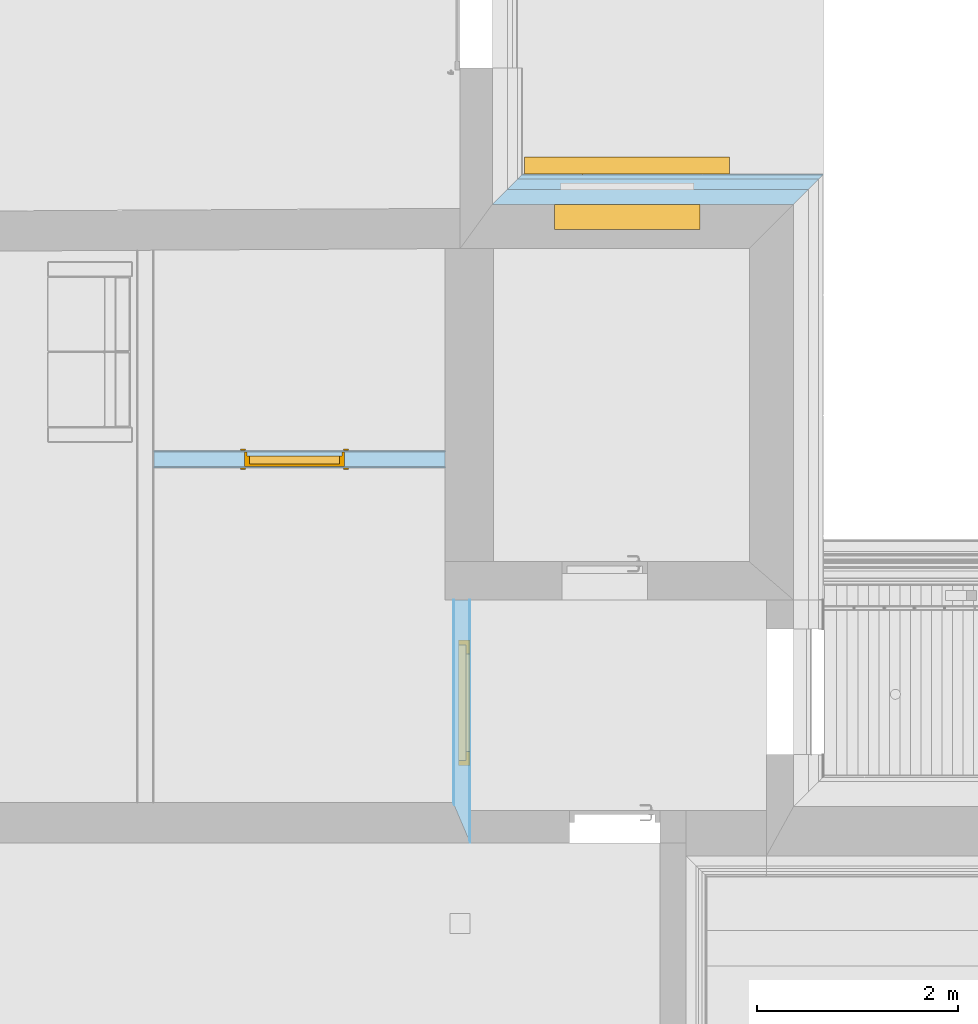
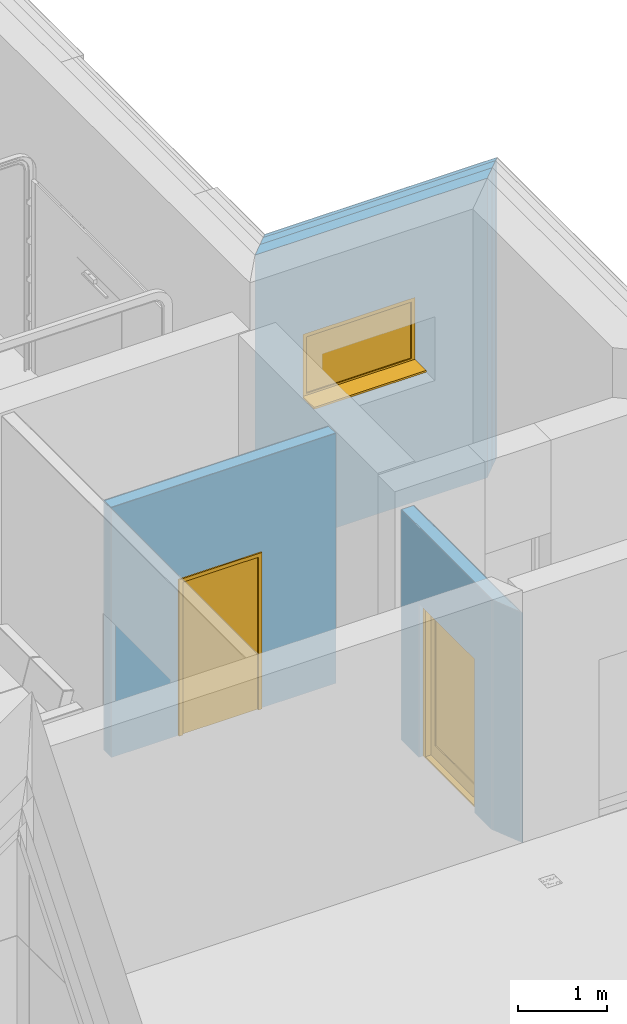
# One storey, part 119 of 418: 2 doors, 1 window, 7 openings, 3 elements without a shape of their own, plus 10 elements that do not belong to this part.
"""IFC2X3 building model written with IfcOpenShell, lengths in millimetres."""

from ifc_helpers import new_model, entity, si_unit, converted_unit, derived_unit, money_unit, direction, frame, origin_with_axes, origin_2d_with_axis, place, context, subcontext, project, spatial, polyline, rectangle, outline, extrude, open_shell, faceted_brep, surface_model, material, type_object, element, fill, aggregate, save


model = new_model("IFC2X3")

# Units and contexts
model_context = context("Model", 3, precision=0.01, world=origin_with_axes(), true_north=direction((0.0, 1.0)))
body_context = subcontext(model_context, "Body", "Model", "MODEL_VIEW")
ifc_project = project(units=[si_unit("LENGTHUNIT", "METRE", prefix="MILLI"), si_unit("AREAUNIT", "SQUARE_METRE"), si_unit("VOLUMEUNIT", "CUBIC_METRE"), converted_unit("PLANEANGLEUNIT", "DEGREE", entity("IfcPlaneAngleMeasure", 0.0174532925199), si_unit("PLANEANGLEUNIT", "RADIAN"), dimensions=[0, 0, 0, 0, 0, 0, 0]), si_unit("SOLIDANGLEUNIT", "STERADIAN"), money_unit("EUR"), converted_unit("TIMEUNIT", "Year", entity("IfcTimeMeasure", 31556926.0), si_unit("TIMEUNIT", "SECOND"), dimensions=[0, 0, 1, 0, 0, 0, 0]), si_unit("MASSUNIT", "GRAM", prefix="KILO"), si_unit("THERMODYNAMICTEMPERATUREUNIT", "DEGREE_CELSIUS"), si_unit("LUMINOUSINTENSITYUNIT", "LUMEN"), si_unit("ENERGYUNIT", "JOULE", prefix="MEGA"), derived_unit("THERMALCONDUCTANCEUNIT", [(si_unit("POWERUNIT", "WATT"), 1), (si_unit("LENGTHUNIT", "METRE"), -1), (si_unit("THERMODYNAMICTEMPERATUREUNIT", "KELVIN"), -1)]), derived_unit("SPECIFICHEATCAPACITYUNIT", [(si_unit("ENERGYUNIT", "JOULE"), 1), (si_unit("MASSUNIT", "GRAM", prefix="KILO"), -1), (si_unit("THERMODYNAMICTEMPERATUREUNIT", "KELVIN"), -1)]), derived_unit("MASSDENSITYUNIT", [(si_unit("MASSUNIT", "GRAM", prefix="KILO"), 1), (si_unit("VOLUMEUNIT", "CUBIC_METRE"), -1)])], contexts=[model_context])

# Site, building, storey
site_placement = place(None, origin_with_axes())
site = spatial("IfcSite", under=ifc_project, at=site_placement, Name="Paldiski mnt 245/1, Tallinn, Harjumaa", CompositionType="COMPLEX")
building_placement = place(site_placement, origin_with_axes())
building = spatial("IfcBuilding", under=site, at=building_placement, Name="RKAS Hoone üldnimetus (kasutust iseloomustav) -> IFC Project Manager -> SOLIBRI", CompositionType="ELEMENT")
storey_placement = place(building_placement, origin_with_axes())
storey = spatial("IfcBuildingStorey", under=building, at=storey_placement, Name="Esimene korrus", CompositionType="ELEMENT", Elevation=0.0)

# Door
door_style_1 = type_object("IfcDoorStyle", Name="Door 23", ConstructionType="NOTDEFINED", OperationType="SINGLE_SWING_LEFT", ParameterTakesPrecedence=False, Sizeable=False)
wall_1_placement = place(storey_placement, frame((-53609.9975509, 9565.96823134, 0.0), z_axis=(0.0, 0.0, 1.0), x_axis=(1.0, 0.0, 0.0)))
opening_1_placement = place(wall_1_placement, frame((1569.99998215, 0.0, 0.0), z_axis=(0.0, 0.0, 1.0), x_axis=(1.0, 0.0, 0.0)))
door_1_placement = place(opening_1_placement, frame((500.0, 0.0, 0.0), z_axis=(0.0, 0.0, 1.0), x_axis=(-1.0, 0.0, 0.0)))
door_1 = element("IfcDoor", 1, at=door_1_placement, inside=storey, type_object=door_style_1, Name="SU-11p", ObjectType="DOOR", OverallHeight=2100.0, OverallWidth=1000.0, context=body_context, shape_type="Brep", body=[
    faceted_brep([(38.0, -40.0, 0.0), (50.0, -40.0, 0.0), (50.0, -40.0, 20.0), (38.0, -40.0, 20.0), (962.0, -40.0, 0.0), (950.0, -40.0, 0.0), (950.0, -115.0, 0.0), (50.0, -115.0, 0.0), (50.0, -115.0, 20.0), (950.0, -115.0, 20.0), (950.0, -40.0, 20.0), (962.0, -40.0, 20.0)], [[[0, 1, 2, 3]], [[0, 4, 5, 6, 7, 1]], [[1, 7, 8, 2]], [[3, 2, 8, 9, 10, 11]], [[4, 0, 3, 11]], [[5, 4, 11, 10]], [[6, 5, 10, 9]], [[7, 6, 9, 8]]]),
    faceted_brep([(1000.0, -115.0, 0.0), (1000.0, -170.0, 0.0), (975.0, -170.0, 0.0), (975.0, -115.0, 0.0), (1000.0, -115.0, 2100.0), (1000.0, -170.0, 2100.0), (975.0, -170.0, 2075.0), (975.0, -115.0, 2075.0)], [[[0, 1, 2, 3]], [[4, 5, 1, 0]], [[1, 5, 6, 2]], [[3, 2, 6, 7]], [[0, 3, 7, 4]], [[7, 6, 5, 4]]]),
    faceted_brep([(0.0, -115.0, 2100.0), (0.0, -170.0, 2100.0), (25.0, -170.0, 2075.0), (25.0, -115.0, 2075.0), (0.0, -115.0, 0.0), (0.0, -170.0, 0.0), (25.0, -170.0, 0.0), (25.0, -115.0, 0.0)], [[[0, 1, 2, 3]], [[4, 5, 1, 0]], [[1, 5, 6, 2]], [[3, 2, 6, 7]], [[0, 3, 7, 4]], [[7, 6, 5, 4]]]),
    faceted_brep([(975.0, -115.0, 2075.0), (975.0, -170.0, 2075.0), (25.0, -170.0, 2075.0), (25.0, -115.0, 2075.0), (1000.0, -115.0, 2100.0), (1000.0, -170.0, 2100.0), (0.0, -170.0, 2100.0), (0.0, -115.0, 2100.0)], [[[0, 1, 2, 3]], [[4, 5, 1, 0]], [[1, 5, 6, 2]], [[3, 2, 6, 7]], [[0, 3, 7, 4]], [[7, 6, 5, 4]]]),
    faceted_brep([(1037.0, -189.0, 0.0), (987.0, -189.0, 0.0), (987.0, -170.0, 0.0), (1037.0, -170.0, 0.0), (1037.0, -189.0, 2137.0), (987.0, -189.0, 2087.0), (987.0, -170.0, 2087.0), (1037.0, -170.0, 2137.0)], [[[0, 1, 2, 3]], [[0, 4, 5, 1]], [[1, 5, 6, 2]], [[3, 2, 6, 7]], [[4, 0, 3, 7]], [[5, 4, 7, 6]]]),
    faceted_brep([(-37.0, -189.0, 2137.0), (13.0, -189.0, 2087.0), (13.0, -170.0, 2087.0), (-37.0, -170.0, 2137.0), (-37.0, -189.0, 0.0), (13.0, -189.0, 0.0), (13.0, -170.0, 0.0), (-37.0, -170.0, 0.0)], [[[0, 1, 2, 3]], [[0, 4, 5, 1]], [[1, 5, 6, 2]], [[3, 2, 6, 7]], [[4, 0, 3, 7]], [[5, 4, 7, 6]]]),
    faceted_brep([(1037.0, -189.0, 2137.0), (987.0, -189.0, 2087.0), (987.0, -170.0, 2087.0), (1037.0, -170.0, 2137.0), (-37.0, -189.0, 2137.0), (13.0, -189.0, 2087.0), (13.0, -170.0, 2087.0), (-37.0, -170.0, 2137.0)], [[[0, 1, 2, 3]], [[0, 4, 5, 1]], [[1, 5, 6, 2]], [[3, 2, 6, 7]], [[4, 0, 3, 7]], [[5, 4, 7, 6]]]),
    faceted_brep([(1037.0, 19.0, 0.0), (1037.0, 0.0, 0.0), (987.0, 0.0, 0.0), (987.0, 19.0, 0.0), (1037.0, 19.0, 2137.0), (1037.0, 0.0, 2137.0), (987.0, 0.0, 2087.0), (987.0, 19.0, 2087.0)], [[[0, 1, 2, 3]], [[4, 5, 1, 0]], [[1, 5, 6, 2]], [[3, 2, 6, 7]], [[0, 3, 7, 4]], [[7, 6, 5, 4]]]),
    faceted_brep([(-37.0, 19.0, 2137.0), (-37.0, 0.0, 2137.0), (13.0, 0.0, 2087.0), (13.0, 19.0, 2087.0), (-37.0, 19.0, 0.0), (-37.0, 0.0, 0.0), (13.0, 0.0, 0.0), (13.0, 19.0, 0.0)], [[[0, 1, 2, 3]], [[4, 5, 1, 0]], [[1, 5, 6, 2]], [[3, 2, 6, 7]], [[0, 3, 7, 4]], [[7, 6, 5, 4]]]),
    faceted_brep([(1037.0, 19.0, 2137.0), (1037.0, 0.0, 2137.0), (987.0, 0.0, 2087.0), (987.0, 19.0, 2087.0), (-37.0, 19.0, 2137.0), (-37.0, 0.0, 2137.0), (13.0, 0.0, 2087.0), (13.0, 19.0, 2087.0)], [[[0, 1, 2, 3]], [[4, 5, 1, 0]], [[1, 5, 6, 2]], [[3, 2, 6, 7]], [[0, 3, 7, 4]], [[7, 6, 5, 4]]]),
    faceted_brep([(950.0, -40.0, 0.0), (950.0, -115.0, 0.0), (950.0, -115.0, 2050.0), (950.0, -40.0, 2050.0), (962.0, -40.0, 0.0), (962.0, 0.0, 0.0), (1000.0, 0.0, 0.0), (1000.0, -115.0, 0.0), (1000.0, -115.0, 2050.0), (962.0, -40.0, 2050.0), (1000.0, 0.0, 2050.0), (962.0, 0.0, 2050.0)], [[[0, 1, 2, 3]], [[4, 5, 6, 7, 1, 0]], [[1, 7, 8, 2]], [[9, 3, 2, 8, 10, 11]], [[9, 4, 0, 3]], [[11, 5, 4, 9]], [[11, 10, 6, 5]], [[6, 10, 8, 7]]]),
    faceted_brep([(38.0, -40.0, 2050.0), (38.0, 0.0, 2050.0), (0.0, 0.0, 2050.0), (0.0, -115.0, 2050.0), (50.0, -115.0, 2050.0), (50.0, -40.0, 2050.0), (38.0, -40.0, 0.0), (38.0, 0.0, 0.0), (0.0, 0.0, 0.0), (0.0, -115.0, 0.0), (50.0, -115.0, 0.0), (50.0, -40.0, 0.0)], [[[0, 1, 2, 3, 4, 5]], [[0, 6, 7, 1]], [[7, 8, 2, 1]], [[2, 8, 9, 3]], [[3, 9, 10, 4]], [[5, 4, 10, 11]], [[5, 11, 6, 0]], [[6, 11, 10, 9, 8, 7]]]),
    faceted_brep([(962.0, 0.0, 2062.0), (38.0, 0.0, 2062.0), (38.0, 0.0, 2050.0), (0.0, 0.0, 2050.0), (0.0, 0.0, 2100.0), (1000.0, 0.0, 2100.0), (1000.0, 0.0, 2050.0), (962.0, 0.0, 2050.0), (962.0, -40.0, 2062.0), (38.0, -40.0, 2062.0), (38.0, -40.0, 2050.0), (50.0, -40.0, 2050.0), (50.0, -115.0, 2050.0), (0.0, -115.0, 2050.0), (0.0, -115.0, 2100.0), (1000.0, -115.0, 2100.0), (1000.0, -115.0, 2050.0), (962.0, -40.0, 2050.0), (950.0, -115.0, 2050.0), (950.0, -40.0, 2050.0)], [[[0, 1, 2, 3, 4, 5, 6, 7]], [[0, 8, 9, 1]], [[1, 9, 10, 2]], [[10, 11, 12, 13, 3, 2]], [[4, 3, 13, 14]], [[5, 4, 14, 15]], [[6, 5, 15, 16]], [[17, 7, 6, 16, 18, 19]], [[7, 17, 8, 0]], [[10, 9, 8, 17, 19, 11]], [[19, 18, 12, 11]], [[12, 18, 16, 15, 14, 13]]]),
    faceted_brep([(38.0, 0.0, 0.0), (962.0, 0.0, 0.0), (962.0, -40.0, 0.0), (38.0, -40.0, 0.0), (38.0, 0.0, 2062.0), (962.0, 0.0, 2062.0), (962.0, -40.0, 2062.0), (38.0, -40.0, 2062.0)], [[[0, 1, 2, 3]], [[0, 4, 5, 1]], [[1, 5, 6, 2]], [[3, 2, 6, 7]], [[4, 0, 3, 7]], [[5, 4, 7, 6]]]),
])

door_style_2 = type_object("IfcDoorStyle", Name="Door 23", ConstructionType="NOTDEFINED", OperationType="SINGLE_SWING_RIGHT", ParameterTakesPrecedence=False, Sizeable=False)
wall_2_placement = place(storey_placement, frame((-50290.0, 6230.0, 0.0), z_axis=(0.0, 0.0, 1.0), x_axis=(0.0, 1.0, 0.0)))
opening_2_placement = place(wall_2_placement, frame((994.828724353, 0.0, 0.0), z_axis=(0.0, 0.0, 1.0), x_axis=(1.0, 0.0, 0.0)))
door_2_placement = place(opening_2_placement, frame((625.0, 0.0, 0.0), z_axis=(0.0, 0.0, 1.0), x_axis=(-1.0, 0.0, 0.0)))
door_2 = element("IfcDoor", 2, at=door_2_placement, inside=storey, type_object=door_style_2, Name="SU-10v", ObjectType="DOOR", OverallHeight=2100.0, OverallWidth=1250.0, context=body_context, shape_type="SurfaceModel", body=[
    faceted_brep([(1212.0, -40.0, 0.0), (1212.0, -40.0, 20.0), (1200.0, -40.0, 20.0), (1200.0, -40.0, 0.0), (38.0, -40.0, 0.0), (38.0, -40.0, 20.0), (50.0, -40.0, 20.0), (50.0, -115.0, 20.0), (1200.0, -115.0, 20.0), (1200.0, -115.0, 0.0), (50.0, -115.0, 0.0), (50.0, -40.0, 0.0)], [[[0, 1, 2, 3]], [[4, 5, 1, 0]], [[1, 5, 6, 7, 8, 2]], [[3, 2, 8, 9]], [[0, 3, 9, 10, 11, 4]], [[11, 6, 5, 4]], [[10, 7, 6, 11]], [[9, 8, 7, 10]]]),
    faceted_brep([(50.0, -40.0, 0.0), (50.0, -40.0, 2050.0), (50.0, -115.0, 2050.0), (50.0, -115.0, 0.0), (38.0, -40.0, 2050.0), (38.0, -40.0, 0.0), (38.0, 0.0, 2050.0), (0.0, 0.0, 2050.0), (0.0, -115.0, 2050.0), (0.0, -115.0, 0.0), (0.0, 0.0, 0.0), (38.0, 0.0, 0.0)], [[[0, 1, 2, 3]], [[4, 1, 0, 5]], [[4, 6, 7, 8, 2, 1]], [[3, 2, 8, 9]], [[5, 0, 3, 9, 10, 11]], [[6, 4, 5, 11]], [[6, 11, 10, 7]], [[10, 9, 8, 7]]]),
    faceted_brep([(1212.0, -40.0, 2050.0), (1200.0, -40.0, 2050.0), (1200.0, -115.0, 2050.0), (1250.0, -115.0, 2050.0), (1250.0, 0.0, 2050.0), (1212.0, 0.0, 2050.0), (1212.0, -40.0, 0.0), (1200.0, -40.0, 0.0), (1200.0, -115.0, 0.0), (1250.0, -115.0, 0.0), (1250.0, 0.0, 0.0), (1212.0, 0.0, 0.0)], [[[0, 1, 2, 3, 4, 5]], [[1, 0, 6, 7]], [[1, 7, 8, 2]], [[3, 2, 8, 9]], [[4, 3, 9, 10]], [[11, 5, 4, 10]], [[0, 5, 11, 6]], [[6, 11, 10, 9, 8, 7]]]),
    faceted_brep([(38.0, 0.0, 2062.0), (38.0, 0.0, 2050.0), (0.0, 0.0, 2050.0), (0.0, 0.0, 2100.0), (1250.0, 0.0, 2100.0), (1250.0, 0.0, 2050.0), (1212.0, 0.0, 2050.0), (1212.0, 0.0, 2062.0), (38.0, -40.0, 2062.0), (38.0, -40.0, 2050.0), (50.0, -40.0, 2050.0), (50.0, -115.0, 2050.0), (0.0, -115.0, 2050.0), (0.0, -115.0, 2100.0), (1250.0, -115.0, 2100.0), (1250.0, -115.0, 2050.0), (1212.0, -40.0, 2050.0), (1200.0, -115.0, 2050.0), (1200.0, -40.0, 2050.0), (1212.0, -40.0, 2062.0)], [[[0, 1, 2, 3, 4, 5, 6, 7]], [[1, 0, 8, 9]], [[9, 10, 11, 12, 2, 1]], [[2, 12, 13, 3]], [[3, 13, 14, 4]], [[4, 14, 15, 5]], [[16, 6, 5, 15, 17, 18]], [[7, 6, 16, 19]], [[0, 7, 19, 8]], [[16, 18, 10, 9, 8, 19]], [[10, 18, 17, 11]], [[17, 15, 14, 13, 12, 11]]]),
    faceted_brep([(1212.0, 0.0, 200.0), (1212.0, -40.0, 200.0), (1112.0, -40.0, 200.0), (1112.0, 0.0, 200.0), (1212.0, 0.0, 1962.0), (1212.0, -40.0, 1962.0), (1112.0, -40.0, 1962.0), (1112.0, 0.0, 1962.0)], [[[0, 1, 2, 3]], [[4, 5, 1, 0]], [[1, 5, 6, 2]], [[3, 2, 6, 7]], [[0, 3, 7, 4]], [[7, 6, 5, 4]]]),
    faceted_brep([(38.0, 0.0, 200.0), (38.0, -40.0, 200.0), (38.0, -40.0, 1962.0), (38.0, 0.0, 1962.0), (138.0, 0.0, 200.0), (138.0, -40.0, 200.0), (138.0, -40.0, 1962.0), (138.0, 0.0, 1962.0)], [[[0, 1, 2, 3]], [[4, 5, 1, 0]], [[1, 5, 6, 2]], [[3, 2, 6, 7]], [[0, 3, 7, 4]], [[7, 6, 5, 4]]]),
    faceted_brep([(1212.0, 0.0, 0.0), (1212.0, -40.0, 0.0), (38.0, -40.0, 0.0), (38.0, 0.0, 0.0), (1212.0, 0.0, 200.0), (1212.0, -40.0, 200.0), (1112.0, -40.0, 200.0), (138.0, -40.0, 200.0), (38.0, -40.0, 200.0), (38.0, 0.0, 200.0), (138.0, 0.0, 200.0), (1112.0, 0.0, 200.0)], [[[0, 1, 2, 3]], [[4, 5, 1, 0]], [[1, 5, 6, 7, 8, 2]], [[3, 2, 8, 9]], [[0, 3, 9, 10, 11, 4]], [[11, 6, 5, 4]], [[10, 7, 6, 11]], [[9, 8, 7, 10]]]),
    faceted_brep([(1212.0, 0.0, 2062.0), (1212.0, -40.0, 2062.0), (1212.0, -40.0, 1962.0), (1212.0, 0.0, 1962.0), (38.0, 0.0, 2062.0), (38.0, -40.0, 2062.0), (38.0, -40.0, 1962.0), (138.0, -40.0, 1962.0), (1112.0, -40.0, 1962.0), (1112.0, 0.0, 1962.0), (138.0, 0.0, 1962.0), (38.0, 0.0, 1962.0)], [[[0, 1, 2, 3]], [[4, 5, 1, 0]], [[1, 5, 6, 7, 8, 2]], [[3, 2, 8, 9]], [[0, 3, 9, 10, 11, 4]], [[11, 6, 5, 4]], [[10, 7, 6, 11]], [[9, 8, 7, 10]]]),
    surface_model("IfcShellBasedSurfaceModel", [(1112.0, -14.0, 200.0), (138.0, -14.0, 200.0), (138.0, -14.0, 1962.0), (1112.0, -14.0, 1962.0)], [open_shell([[[0, 1, 2, 3]]])]),
    surface_model("IfcShellBasedSurfaceModel", [(1112.0, -26.0, 200.0), (1112.0, -26.0, 1962.0), (138.0, -26.0, 1962.0), (138.0, -26.0, 200.0)], [open_shell([[[0, 1, 2, 3]]])]),
])

# Window
window_style = type_object("IfcWindowStyle", Name="Window 23", ConstructionType="NOTDEFINED", OperationType="SINGLE_PANEL", ParameterTakesPrecedence=False, Sizeable=False)
wall_3_placement = place(storey_placement, frame((-47070.0, 12189.8287244, 0.0), z_axis=(0.0, 0.0, 1.0), x_axis=(-1.0, 0.0, 0.0)))
opening_3_placement = place(wall_3_placement, frame((1657.25115915, 0.0, 1920.0), z_axis=(0.0, 0.0, 1.0), x_axis=(1.0, 0.0, 0.0)))
window_placement = place(opening_3_placement, frame((-725.0, 0.0, 0.0), z_axis=(0.0, 0.0, 1.0), x_axis=(1.0, 0.0, 0.0)))
window = element("IfcWindow", 3, at=window_placement, inside=storey, type_object=window_style, Name="TTA-01", ObjectType="WINDOW", OverallHeight=870.0, OverallWidth=1450.0, context=body_context, shape_type="SurfaceModel", body=[
    faceted_brep([(1385.0, -49.9999999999, 5.0), (1385.0, -49.9999999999, 30.0), (1385.0, -300.0, 19.9197918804), (1385.0, -300.0, 5.0), (65.0, -50.0, 5.0), (65.0, -50.0, 30.0), (65.0, -300.0, 19.9197918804), (-295.0, -300.0, 19.9197918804), (-295.0, -470.0, 13.0652503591), (1745.0, -470.0, 13.0652503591), (1745.0, -300.0, 19.9197918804), (1745.0, -300.0, 5.0), (1745.0, -470.0, 5.0), (-295.0, -470.0, 5.0), (-295.0, -300.0, 5.0), (65.0, -300.0, 5.0)], [[[0, 1, 2, 3]], [[4, 5, 1, 0]], [[1, 5, 6, 7, 8, 9, 10, 2]], [[3, 2, 10, 11]], [[0, 3, 11, 12, 13, 14, 15, 4]], [[15, 6, 5, 4]], [[14, 7, 6, 15]], [[13, 8, 7, 14]], [[12, 9, 8, 13]], [[11, 10, 9, 12]]]),
    faceted_brep([(1385.0, -49.9999999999, 0.0), (1385.0, -49.9999999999, 5.0), (1385.0, -300.0, 5.0), (1385.0, -300.0, 0.0), (65.0, -50.0, 0.0), (65.0, -50.0, 5.0), (65.0, -300.0, 5.0), (-295.0, -300.0, 5.0), (1745.0, -300.0, 5.0), (1745.0, -300.0, 0.0), (-295.0, -300.0, 0.0), (65.0, -300.0, 0.0)], [[[0, 1, 2, 3]], [[4, 5, 1, 0]], [[1, 5, 6, 7, 8, 2]], [[3, 2, 8, 9]], [[0, 3, 9, 10, 11, 4]], [[11, 6, 5, 4]], [[10, 7, 6, 11]], [[9, 8, 7, 10]]]),
    faceted_brep([(0.0, 0.0, 0.0), (0.0, 0.0, 25.0), (0.0, 250.0, 25.0), (0.0, 250.0, 0.0), (1450.0, 0.0, 0.0), (1450.0, 0.0, 25.0), (1450.0, 250.0, 25.0), (1450.0, 250.0, 0.0)], [[[0, 1, 2, 3]], [[4, 5, 1, 0]], [[1, 5, 6, 2]], [[3, 2, 6, 7]], [[0, 3, 7, 4]], [[7, 6, 5, 4]]]),
    faceted_brep([(1377.0, -300.0, 19.9197918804), (1377.0, -300.0, 797.0), (1377.0, -49.9999999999, 797.0), (1377.0, -49.9999999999, 30.0), (1385.0, -300.0, 19.9197918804), (1385.0, -300.0, 805.0), (1385.0, -49.9999999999, 805.0), (1385.0, -49.9999999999, 30.0)], [[[0, 1, 2, 3]], [[4, 5, 1, 0]], [[6, 2, 1, 5]], [[3, 2, 6, 7]], [[7, 4, 0, 3]], [[7, 6, 5, 4]]]),
    faceted_brep([(65.0, -300.0, 19.9197918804), (65.0, -300.0, 805.0), (65.0, -50.0, 805.0), (65.0, -50.0, 30.0), (73.0, -300.0, 19.9197918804), (73.0, -300.0, 797.0), (73.0, -50.0, 797.0), (73.0, -50.0, 30.0)], [[[0, 1, 2, 3]], [[4, 5, 1, 0]], [[6, 2, 1, 5]], [[3, 2, 6, 7]], [[7, 4, 0, 3]], [[7, 6, 5, 4]]]),
    faceted_brep([(1385.0, -49.9999999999, 805.0), (1385.0, -300.0, 805.0), (1377.0, -300.0, 797.0), (1377.0, -49.9999999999, 797.0), (65.0, -50.0, 805.0), (65.0, -300.0, 805.0), (73.0, -300.0, 797.0), (73.0, -50.0, 797.0)], [[[0, 1, 2, 3]], [[4, 5, 1, 0]], [[1, 5, 6, 2]], [[3, 2, 6, 7]], [[0, 3, 7, 4]], [[7, 6, 5, 4]]]),
    faceted_brep([(1400.0, -49.9999999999, 820.0), (1450.0, -49.9999999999, 820.0), (1450.0, 0.0, 820.0), (1400.0, 0.0, 820.0), (1400.0, -49.9999999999, 50.0), (1450.0, -49.9999999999, 50.0), (1450.0, 0.0, 50.0), (1400.0, 0.0, 50.0)], [[[0, 1, 2, 3]], [[0, 4, 5, 1]], [[1, 5, 6, 2]], [[3, 2, 6, 7]], [[4, 0, 3, 7]], [[5, 4, 7, 6]]]),
    faceted_brep([(50.0, -50.0, 50.0), (0.0, -50.0, 50.0), (0.0, 0.0, 50.0), (50.0, 0.0, 50.0), (50.0, -50.0, 820.0), (0.0, -50.0, 820.0), (0.0, 0.0, 820.0), (50.0, 0.0, 820.0)], [[[0, 1, 2, 3]], [[0, 4, 5, 1]], [[1, 5, 6, 2]], [[3, 2, 6, 7]], [[4, 0, 3, 7]], [[5, 4, 7, 6]]]),
    faceted_brep([(1400.0, -49.9999999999, 50.0), (1450.0, -49.9999999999, 50.0), (1450.0, 0.0, 50.0), (1400.0, 0.0, 50.0), (50.0, -50.0, 50.0), (0.0, -50.0, 50.0), (0.0, -50.0, 0.0), (1450.0, -49.9999999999, 0.0), (1450.0, 0.0, 0.0), (0.0, 0.0, 0.0), (0.0, 0.0, 50.0), (50.0, 0.0, 50.0)], [[[0, 1, 2, 3]], [[0, 4, 5, 6, 7, 1]], [[1, 7, 8, 2]], [[3, 2, 8, 9, 10, 11]], [[4, 0, 3, 11]], [[5, 4, 11, 10]], [[6, 5, 10, 9]], [[7, 6, 9, 8]]]),
    faceted_brep([(50.0, -50.0, 820.0), (0.0, -50.0, 820.0), (0.0, 0.0, 820.0), (50.0, 0.0, 820.0), (1400.0, -49.9999999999, 820.0), (1450.0, -49.9999999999, 820.0), (1450.0, -49.9999999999, 870.0), (0.0, -50.0, 870.0), (0.0, 0.0, 870.0), (1450.0, 0.0, 870.0), (1450.0, 0.0, 820.0), (1400.0, 0.0, 820.0)], [[[0, 1, 2, 3]], [[0, 4, 5, 6, 7, 1]], [[1, 7, 8, 2]], [[3, 2, 8, 9, 10, 11]], [[4, 0, 3, 11]], [[5, 4, 11, 10]], [[6, 5, 10, 9]], [[7, 6, 9, 8]]]),
    surface_model("IfcShellBasedSurfaceModel", [(1400.0, -34.9999999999, 50.0), (1400.0, -34.9999999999, 820.0), (50.0, -35.0, 820.0), (50.0, -35.0, 50.0)], [open_shell([[[0, 1, 2, 3]]])]),
    surface_model("IfcShellBasedSurfaceModel", [(1400.0, -14.9999999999, 50.0), (50.0, -15.0, 50.0), (50.0, -15.0, 820.0), (1400.0, -14.9999999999, 820.0)], [open_shell([[[0, 1, 2, 3]]])]),
])

# Wall, opening
wall_type_1 = type_object("IfcWallType", Name="SS-04 170", PredefinedType="NOTDEFINED")
wall_1 = element("IfcWall", 4, at=wall_1_placement, inside=storey, type_object=wall_type_1, Name="SS-04")
opening_1 = element("IfcOpeningElement", 5, at=opening_1_placement, cuts=wall_1, Name="SU-11p", context=body_context, shape_type="SweptSolid", body=[
    extrude(rectangle(XDim=1000.0, YDim=2100.0, at=origin_2d_with_axis()), frame((0.0, 170.0, 1050.0), z_axis=(0.0, 1.0, 0.0), x_axis=(1.0, 0.0, 0.0)), (0.0, 0.0, -1.0), 510.0),
    extrude(rectangle(XDim=1074.0, YDim=2137.0, at=origin_2d_with_axis()), frame((0.0, 170.0, 1068.5), z_axis=(0.0, 1.0, 0.0), x_axis=(1.0, 0.0, 0.0)), (0.0, 0.0, 1.0), 170.0),
    extrude(rectangle(XDim=1074.0, YDim=2137.0, at=origin_2d_with_axis()), frame((0.0, 0.0, 1068.5), z_axis=(0.0, -1.0, 0.0), x_axis=(1.0, 0.0, 0.0)), (0.0, 0.0, 1.0), 170.0),
])

fill(opening_1, door_1)

# Building element part
ifc_material_1 = material(Name="Krohv")
building_element_part_1_placement = place(wall_1_placement, origin_with_axes())
building_element_part_1 = element("IfcBuildingElementPart", 6, at=building_element_part_1_placement, material=ifc_material_1, Name="Krohv", context=body_context, shape_type="SweptSolid", body=[
    extrude(outline(polyline([(170.0, 0.0), (3069.9999643, 0.0), (3069.9999643, 10.0), (170.0, 10.0), (170.0, 0.0)])), origin_with_axes(), (0.0, 0.0, 1.0), 3411.80696097),
])

ifc_material_2 = material(Name="FIBO 5")
building_element_part_2_placement = place(wall_1_placement, origin_with_axes())
building_element_part_2 = element("IfcBuildingElementPart", 7, at=building_element_part_2_placement, material=ifc_material_2, Name="FIBO 5", context=body_context, shape_type="SweptSolid", body=[
    extrude(outline(polyline([(170.0, 10.0), (3069.9999643, 10.0), (3069.9999643, 160.0), (170.0, 160.0), (170.0, 10.0)])), origin_with_axes(), (0.0, 0.0, 1.0), 3411.80696097),
])

building_element_part_3_placement = place(wall_1_placement, origin_with_axes())
building_element_part_3 = element("IfcBuildingElementPart", 8, at=building_element_part_3_placement, material=ifc_material_1, Name="Krohv", context=body_context, shape_type="SweptSolid", body=[
    extrude(outline(polyline([(170.0, 160.0), (3069.9999643, 160.0), (3069.9999643, 170.0), (170.0, 170.0), (170.0, 160.0)])), origin_with_axes(), (0.0, 0.0, 1.0), 3411.80696097),
])

aggregate(wall_1, [building_element_part_1, building_element_part_2, building_element_part_3])

# Wall, opening
wall_2 = element("IfcWall", 9, at=wall_2_placement, inside=storey, type_object=wall_type_1, Name="SS-04")
opening_2 = element("IfcOpeningElement", 10, at=opening_2_placement, cuts=wall_2, Name="SU-10v", context=body_context, shape_type="SweptSolid", body=[
    extrude(rectangle(XDim=1250.0, YDim=2100.0, at=origin_2d_with_axis()), frame((0.0, 170.0, 1050.0), z_axis=(0.0, -1.0, 0.0), x_axis=(-1.0, 0.0, 0.0)), (0.0, 0.0, 1.0), 510.0),
])

fill(opening_2, door_2)

# Building element part
building_element_part_4_placement = place(wall_2_placement, origin_with_axes())
building_element_part_4 = element("IfcBuildingElementPart", 11, at=building_element_part_4_placement, material=ifc_material_1, Name="Krohv", context=body_context, shape_type="SweptSolid", body=[
    extrude(outline(polyline([(-400.0, 0.0), (2020.0, 0.0), (2020.0, 10.0), (-376.470588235, 9.99999999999), (-400.0, 0.0)])), origin_with_axes(), (0.0, 0.0, 1.0), 3141.80696097),
])

building_element_part_5_placement = place(wall_2_placement, origin_with_axes())
building_element_part_5 = element("IfcBuildingElementPart", 12, at=building_element_part_5_placement, material=ifc_material_2, Name="FIBO 5", context=body_context, shape_type="SweptSolid", body=[
    extrude(outline(polyline([(-376.470588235, 9.99999999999), (2020.0, 10.0), (2020.0, 160.0), (-23.5294117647, 160.0), (-376.470588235, 9.99999999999)])), origin_with_axes(), (0.0, 0.0, 1.0), 3141.80696097),
])

building_element_part_6_placement = place(wall_2_placement, origin_with_axes())
building_element_part_6 = element("IfcBuildingElementPart", 13, at=building_element_part_6_placement, material=ifc_material_1, Name="Krohv", context=body_context, shape_type="SweptSolid", body=[
    extrude(outline(polyline([(-23.5294117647, 160.0), (2020.0, 160.0), (2020.0, 170.0), (0.0, 170.0), (-23.5294117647, 160.0)])), origin_with_axes(), (0.0, 0.0, 1.0), 3141.80696097),
])

aggregate(wall_2, [building_element_part_4, building_element_part_5, building_element_part_6])

# Wall, opening
wall_type_2 = type_object("IfcWallType", Name="VS-03J_uued_kihid 300", PredefinedType="NOTDEFINED")
wall_3 = element("IfcWall", 14, at=wall_3_placement, inside=storey, type_object=wall_type_2, Name="VS-03")
opening_3 = element("IfcOpeningElement", 15, at=opening_3_placement, cuts=wall_3, Name="TTA-01", context=body_context, shape_type="SweptSolid", body=[
    extrude(rectangle(XDim=1320.0, YDim=805.0, at=origin_2d_with_axis()), frame((0.0, -49.9999999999, 402.5), z_axis=(0.0, -1.0, 0.0), x_axis=(-1.0, 0.0, 0.0)), (0.0, 0.0, 1.0), 550.0),
    extrude(rectangle(XDim=1450.0, YDim=870.0, at=origin_2d_with_axis()), frame((0.0, -49.9999999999, 435.0), z_axis=(0.0, -1.0, 0.0), x_axis=(-1.0, 0.0, 0.0)), (0.0, 0.0, -1.0), 50.0),
    extrude(rectangle(XDim=1450.0, YDim=870.0, at=origin_2d_with_axis()), frame((0.0, 0.0, 435.0), z_axis=(0.0, 1.0, 0.0), x_axis=(-1.0, 0.0, 0.0)), (0.0, 0.0, 1.0), 550.0),
])

fill(opening_3, window)

# Opening
opening_4_placement = place(wall_3_placement, frame((904.0, 0.0, 0.0), z_axis=(0.0, 0.0, 1.0), x_axis=(1.0, 0.0, 0.0)))
element("IfcOpeningElement", 16, at=opening_4_placement, cuts=wall_3, Name="Cembrit fassaadiplaadi vuuk", context=body_context, shape_type="SweptSolid", body=[
    extrude(outline(polyline([(-4.0, 0.0), (3.99999999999, 0.0), (3.99999999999, 4090.0), (-4.0, 4090.0), (-4.0, 0.0)])), frame((0.0, -292.0, 0.0), z_axis=(0.0, -1.0, 0.0), x_axis=(1.0, 0.0, 0.0)), (0.0, 0.0, 1.0), 308.0),
])

opening_5_placement = place(wall_3_placement, frame((1204.0, 0.0, 2990.0), z_axis=(0.0, 0.0, 1.0), x_axis=(1.0, 0.0, 0.0)))
element("IfcOpeningElement", 17, at=opening_5_placement, cuts=wall_3, Name="Cembrit fassaadiplaadi vuuk", context=body_context, shape_type="SweptSolid", body=[
    extrude(outline(polyline([(-1504.0, 0.0), (1504.0, 0.0), (1504.0, 8.0), (-1504.0, 8.0), (-1504.0, 0.0)])), frame((0.0, -292.0, 0.0), z_axis=(0.0, 1.0, 0.0), x_axis=(-1.0, 0.0, 0.0)), (0.0, 0.0, -1.0), 308.0),
])

opening_6_placement = place(wall_3_placement, frame((1204.0, 0.0, 1298.0), z_axis=(0.0, 0.0, 1.0), x_axis=(1.0, 0.0, 0.0)))
element("IfcOpeningElement", 18, at=opening_6_placement, cuts=wall_3, Name="Cembrit fassaadiplaadi vuuk", context=body_context, shape_type="SweptSolid", body=[
    extrude(outline(polyline([(-1504.0, 0.0), (1504.0, 0.0), (1504.0, 8.0), (-1504.0, 8.0), (-1504.0, 0.0)])), frame((0.0, -292.0, 0.0), z_axis=(0.0, 1.0, 0.0), x_axis=(-1.0, 0.0, 0.0)), (0.0, 0.0, -1.0), 308.0),
])

opening_7_placement = place(wall_3_placement, frame((2104.0, 0.0, 0.0), z_axis=(0.0, 0.0, 1.0), x_axis=(1.0, 0.0, 0.0)))
element("IfcOpeningElement", 19, at=opening_7_placement, cuts=wall_3, Name="Cembrit fassaadiplaadi vuuk", context=body_context, shape_type="SweptSolid", body=[
    extrude(outline(polyline([(-4.0, 0.0), (3.99999999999, 0.0), (3.99999999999, 4090.0), (-4.0, 4090.0), (-4.0, 0.0)])), frame((0.0, -292.0, 0.0), z_axis=(0.0, -1.0, 0.0), x_axis=(1.0, 0.0, 0.0)), (0.0, 0.0, 1.0), 308.0),
])

# Building element part
ifc_material_3 = material(Name="Cembrit_C040")
building_element_part_7_placement = place(wall_3_placement, origin_with_axes())
building_element_part_7 = element("IfcBuildingElementPart", 20, at=building_element_part_7_placement, material=ifc_material_3, Name="Cembrit_C040", context=body_context, shape_type="SweptSolid", body=[
    extrude(outline(polyline([(-300.0, -300.0), (2700.0, -300.0), (2708.0, -292.0), (-292.0, -292.0), (-300.0, -300.0)])), origin_with_axes(), (0.0, 0.0, 1.0), 4090.0),
])

ifc_material_4 = material(Name="VKR-06_Õhkvahe")
building_element_part_8_placement = place(wall_3_placement, origin_with_axes())
building_element_part_8 = element("IfcBuildingElementPart", 21, at=building_element_part_8_placement, material=ifc_material_4, Name="VKR-06_Õhkvahe", context=body_context, shape_type="SweptSolid", body=[
    extrude(outline(polyline([(-292.0, -292.0), (2708.0, -292.0), (2750.0, -250.0), (-250.0, -250.0), (-292.0, -292.0)])), origin_with_axes(), (0.0, 0.0, 1.0), 4090.0),
])

ifc_material_5 = material(Name="Kingspan Kooltherm")
building_element_part_9_placement = place(wall_3_placement, origin_with_axes())
building_element_part_9 = element("IfcBuildingElementPart", 22, at=building_element_part_9_placement, material=ifc_material_5, Name="Kingspan Kooltherm", context=body_context, shape_type="SweptSolid", body=[
    extrude(outline(polyline([(-250.0, -250.0), (2750.0, -250.0), (2850.0, -150.0), (-150.0, -150.0), (-250.0, -250.0)])), origin_with_axes(), (0.0, 0.0, 1.0), 4090.0),
])

building_element_part_10_placement = place(wall_3_placement, origin_with_axes())
building_element_part_10 = element("IfcBuildingElementPart", 23, at=building_element_part_10_placement, material=ifc_material_5, Name="Kingspan Kooltherm", context=body_context, shape_type="SweptSolid", body=[
    extrude(outline(polyline([(-150.0, -150.0), (2850.0, -150.0), (3000.0, 0.0), (0.0, 0.0), (-150.0, -150.0)])), origin_with_axes(), (0.0, 0.0, 1.0), 4090.0),
])

aggregate(wall_3, [building_element_part_7, building_element_part_8, building_element_part_9, building_element_part_10])

save(model, "model.ifc")
